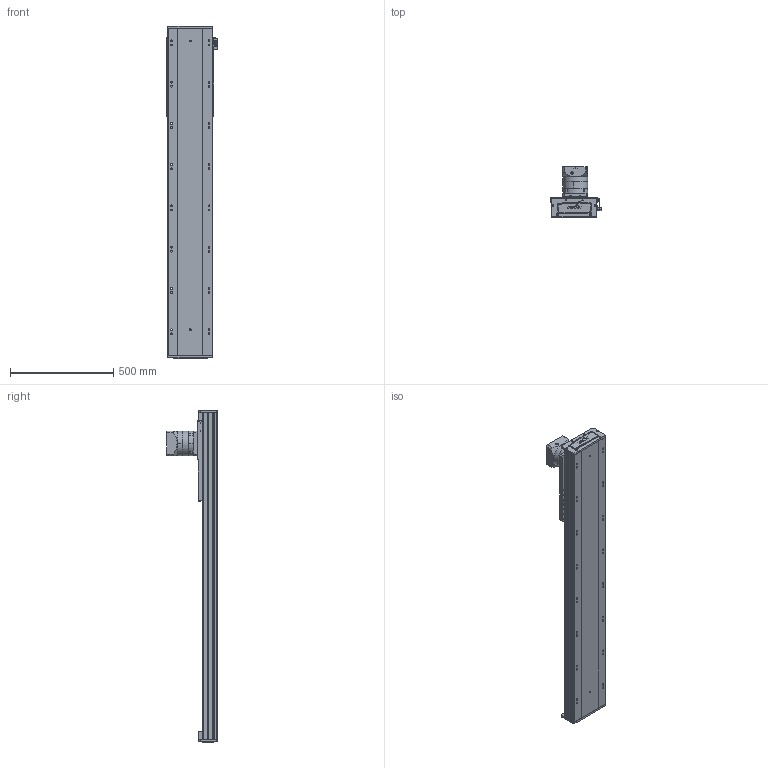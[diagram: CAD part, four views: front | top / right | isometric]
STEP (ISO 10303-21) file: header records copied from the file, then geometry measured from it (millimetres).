
FILE_DESCRIPTION (( 'STEP AP203' ), '1' );
FILE_NAME ('RY220-C-300-UK.SLDASM_1100.step', '2022-08-01T05:59:05', ( '' ), ( '' ), 'SwSTEP 2.0', 'SolidWorks 2016', '' );
FILE_SCHEMA (( 'CONFIG_CONTROL_DESIGN' ));
Length unit declared in the file: millimetre
Products named in the file (10): RY220菁釱MK-300_1100; RY220-齿条模组电机安装板; 滅袉蝶輸ㄗG412隅秶ㄘ; RY220喘沭賑輸; RY140直线电机感应器674光电安装座; RY220喘沭綴裔啣; RY220喘沭俋离覜茼え; PF115L1-S2-22-58-110-145-M8; 覜茼ん674; RY220-C-300-UK.SLDASM_1100
Assembly tree (12 placements, depth 2):
  RY220-C-300-UK.SLDASM_1100
    RY220菁釱MK-300_1100
    RY220喘沭賑輸
    RY220-齿条模组电机安装板
    PF115L1-S2-22-58-110-145-M8
    RY220喘沭綴裔啣  x2
    滅袉蝶輸ㄗG412隅秶ㄘ  x2
    RY140直线电机感应器674光电安装座
    覜茼ん674  x2
    RY220喘沭俋离覜茼え
Bounding box: 247 x 244.5 x 1609 mm (x, y, z)
Volume: 12935209.4 mm3; surface area: 2547475.4 mm2
Topology: 18 solids, 26 shells, 1990 faces, 5329 edges, 3389 vertices
Faces by surface type: cylinder 907, plane 751, cone 170, bspline 162
Entity records: 62805 total; most frequent: CARTESIAN_POINT 17267, DIRECTION 9291, ORIENTED_EDGE 9218, EDGE_CURVE 4609, AXIS2_PLACEMENT_3D 3521, VERTEX_POINT 3015, EDGE_LOOP 2252, VECTOR 2249
